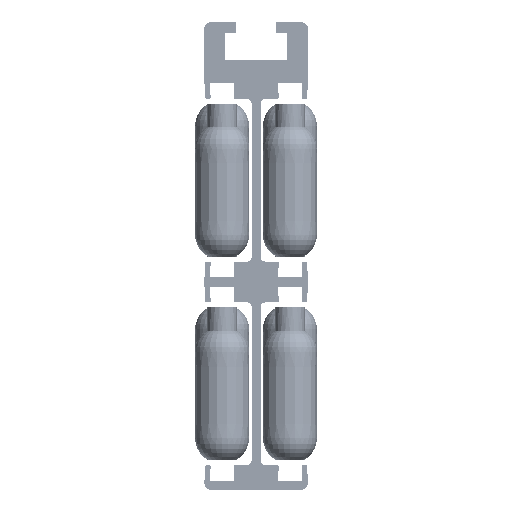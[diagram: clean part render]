
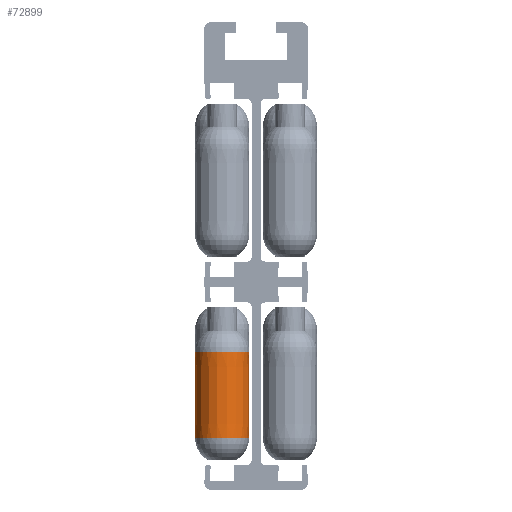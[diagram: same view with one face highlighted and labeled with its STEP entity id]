
A CAD part, left-side view. The second image highlights one B-rep face of the part: STEP entity #72899.
In plain terms, the highlighted conical face has half-angle 0.006 degrees and reference radius 5.999 mm.
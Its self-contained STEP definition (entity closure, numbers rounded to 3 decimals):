
#65053=EDGE_CURVE('',#99218,#142613,#142614,.T.);
#66375=EDGE_CURVE('',#142613,#144587,#144588,.T.);
#67057=EDGE_CURVE('',#145586,#145587,#145588,.T.);
#72899=ADVANCED_FACE('',(#153992),#153993,.T.);
#80875=EDGE_CURVE('',#97902,#145586,#164859,.T.);
#97902=VERTEX_POINT('',#187313);
#99218=VERTEX_POINT('',#188866);
#142613=VERTEX_POINT('',#240107);
#142614=CIRCLE('',#240108,6.);
#144587=VERTEX_POINT('',#242444);
#144588=CIRCLE('',#242445,6.);
#145586=VERTEX_POINT('',#243657);
#145587=VERTEX_POINT('',#243658);
#145588=CIRCLE('',#243659,5.998);
#153992=FACE_OUTER_BOUND('',#253754,.T.);
#153993=CONICAL_SURFACE('',#253755,5.999,0.);
#164859=CIRCLE('',#266897,5.998);
#187313=CARTESIAN_POINT('',(-2994.0,13.681,-14.84));
#188866=CARTESIAN_POINT('',(-2994.0,13.683,-33.898));
#240107=CARTESIAN_POINT('',(-3000.,7.683,-33.898));
#240108=AXIS2_PLACEMENT_3D('',#357020,#357021,#357022);
#242444=CARTESIAN_POINT('',(-2994.0,1.683,-33.898));
#242445=AXIS2_PLACEMENT_3D('',#360559,#360560,#360561);
#243657=CARTESIAN_POINT('',(-2999.998,7.683,-14.84));
#243658=CARTESIAN_POINT('',(-2994.0,1.685,-14.84));
#243659=AXIS2_PLACEMENT_3D('',#362208,#362209,#362210);
#253754=EDGE_LOOP('',(#377158,#377159,#377160,#377161,#377162,#377163));
#253755=AXIS2_PLACEMENT_3D('',#377164,#377165,#377166);
#266897=AXIS2_PLACEMENT_3D('',#397447,#397448,#397449);
#357020=CARTESIAN_POINT('',(-2994.0,7.683,-33.898));
#357021=DIRECTION('',(0.,0.,1.0));
#357022=DIRECTION('',(0.,1.0,0.));
#360559=CARTESIAN_POINT('',(-2994.0,7.683,-33.898));
#360560=DIRECTION('',(0.,0.,1.0));
#360561=DIRECTION('',(0.,1.0,0.));
#362208=CARTESIAN_POINT('',(-2994.0,7.683,-14.84));
#362209=DIRECTION('',(0.,0.,1.0));
#362210=DIRECTION('',(0.,1.0,0.));
#377158=ORIENTED_EDGE('',*,*,#440812,.F.);
#377159=ORIENTED_EDGE('',*,*,#65053,.T.);
#377160=ORIENTED_EDGE('',*,*,#66375,.T.);
#377161=ORIENTED_EDGE('',*,*,#440813,.F.);
#377162=ORIENTED_EDGE('',*,*,#67057,.F.);
#377163=ORIENTED_EDGE('',*,*,#80875,.F.);
#377164=CARTESIAN_POINT('',(-2994.0,7.683,-24.369));
#377165=DIRECTION('',(0.,0.,-1.0));
#377166=DIRECTION('',(0.,1.0,0.));
#397447=CARTESIAN_POINT('',(-2994.0,7.683,-14.84));
#397448=DIRECTION('',(0.,0.,1.0));
#397449=DIRECTION('',(0.,1.0,0.));
#440812=EDGE_CURVE('',#99218,#97902,#459936,.T.);
#440813=EDGE_CURVE('',#145587,#144587,#459937,.T.);
#459936=LINE('',#481522,#481523);
#459937=LINE('',#481524,#481525);
#481522=CARTESIAN_POINT('',(-2994.0,13.682,-24.369));
#481523=VECTOR('',#502972,1.0);
#481524=CARTESIAN_POINT('',(-2994.0,1.684,-24.369));
#481525=VECTOR('',#502973,1.0);
#502972=DIRECTION('',(0.,0.,1.));
#502973=DIRECTION('',(0.,0.,-1.));
